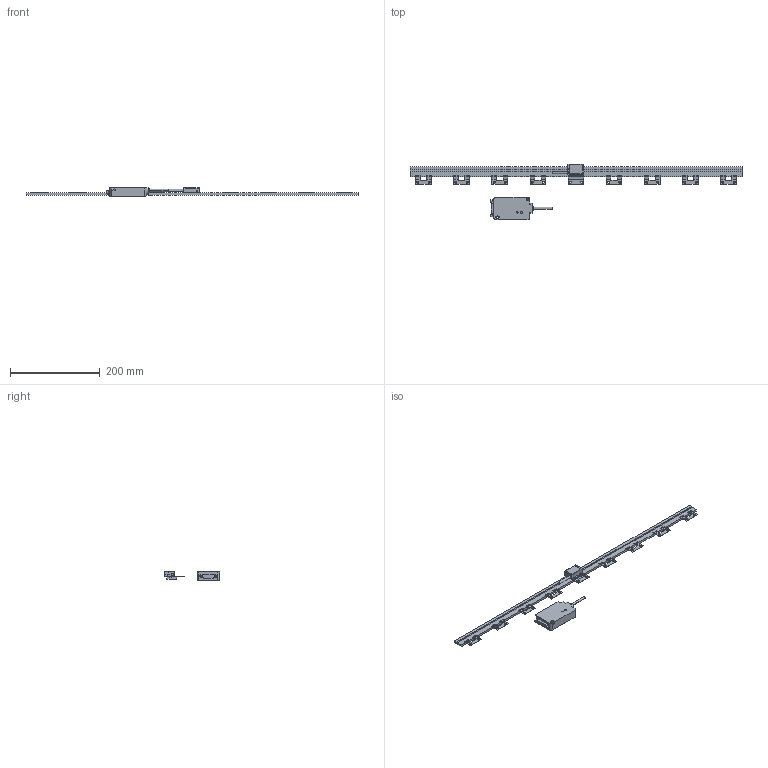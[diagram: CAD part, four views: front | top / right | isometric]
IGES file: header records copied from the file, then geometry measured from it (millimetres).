
Start section: Elysium IGES Interface
Global section: file name: 61H\\Utsu119s\kiyo_cad\data\3D\ST36\HP掲載用_201804\ST36-700.igs; native system: Creo Elements/Direct Modeling 18.1B  29-Sep-2012; preprocessor: Creo Element/Direct IGES_3D V2.2; author: Unknown; organization: Unknown; date: 20180323.142839; units: millimetre
Bounding box: 740 x 123 x 19.9 mm (x, y, z)
Volume: 167971.4 mm3; surface area: 69117.6 mm2
Topology: 3 solids, 5 shells, 593 faces, 1607 edges, 1047 vertices
Faces by surface type: bspline 593
